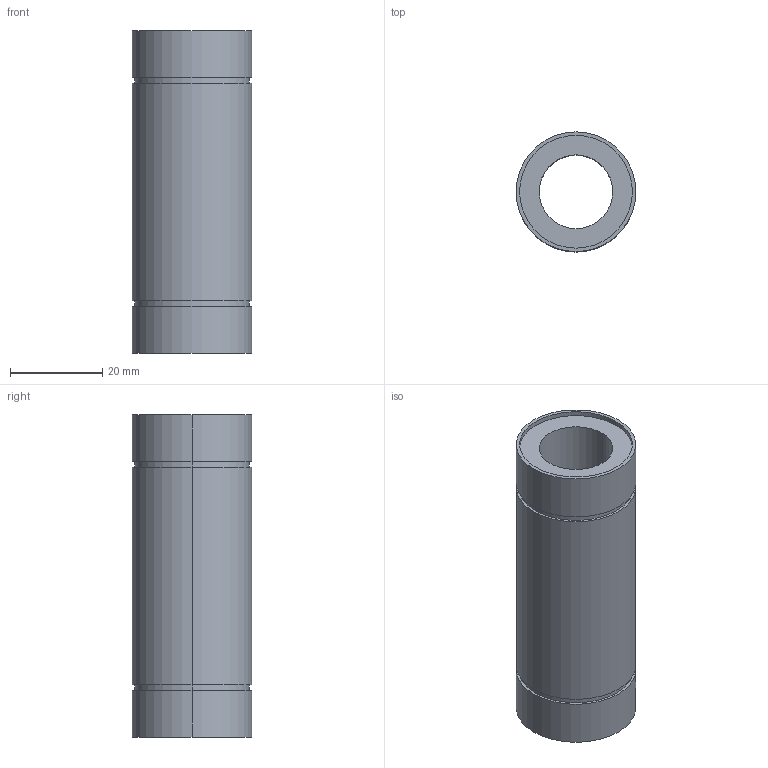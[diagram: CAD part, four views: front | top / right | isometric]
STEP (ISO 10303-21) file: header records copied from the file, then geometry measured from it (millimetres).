
FILE_DESCRIPTION((''),'2;1');
FILE_NAME('C:\Documents and Settings\ｿﾀﾀ蠑ｷ1\ｹﾙﾅﾁ ﾈｭｸ饅\ｺﾎﾇｰﾆﾄﾀﾏ\ﾁｦﾇｰ\LME__LUU\LME16LUU.stp','2005-06-14T16:55:44',('ｿﾀﾀ蠑ｷ1'),(''),'Autodesk Inventor 9','Autodesk Inventor 9','');
FILE_SCHEMA(('AUTOMOTIVE_DESIGN { 1 0 10303 214 1 1 1 1 }'));
Length unit declared in the file: millimetre
Products named in the file (1): LME__
Bounding box: 26 x 26 x 70 mm (x, y, z)
Volume: 22435.6 mm3; surface area: 10116.3 mm2
Topology: 1 solids, 1 shells, 24 faces, 48 edges, 32 vertices
Faces by surface type: cylinder 16, plane 8
Entity records: 671 total; most frequent: DIRECTION 130, CARTESIAN_POINT 105, ORIENTED_EDGE 96, AXIS2_PLACEMENT_3D 57, EDGE_CURVE 48, VERTEX_POINT 32, CIRCLE 32, EDGE_LOOP 32
